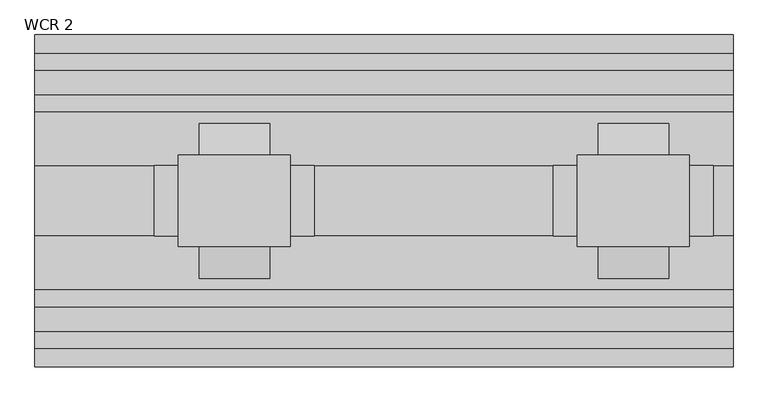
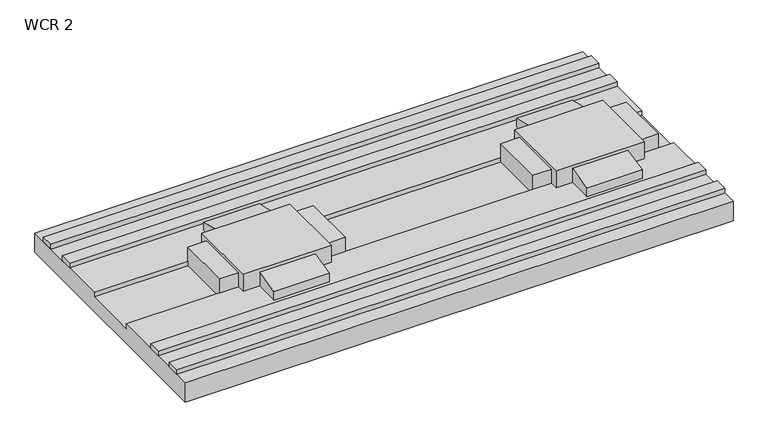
"""IFC4 building model written with IfcOpenShell, lengths in millimetres: proxy geometry, Duct-Walkercell-Wiremold : WCR 2."""

from ifc_helpers import new_model, si_unit, frame, origin, place, context, project, spatial, polyline, outline, extrude, faceted_brep, source, transform, mapped, element, save


def wcr_2_2d5ae721(model_context):
    return source(origin(), model_context, "Body", "SolidModel", [
        faceted_brep([(828.675, 69.85, 25.4), (828.675, -69.85, 25.4), (1000.125, -69.85, 25.4), (1000.125, 69.85, 25.4), (792.1625, -53.975, -19.05), (792.1625, 53.975, -19.05), (1036.6375, 53.975, -19.05), (1036.6375, -53.975, -19.05), (1000.125, 53.975, -9.525), (828.675, 53.975, -9.525), (828.675, 69.85, -9.525), (860.425, 69.85, -9.525), (860.425, 118.2751, -9.525), (968.375, 118.2751, -9.525), (968.375, 69.85, -9.525), (1000.125, 69.85, -9.525), (1000.125, 53.975, 19.05), (1036.6375, 53.975, 19.05), (792.1625, 53.975, 19.05), (828.675, 53.975, 19.05), (828.675, -53.975, -9.525), (1000.125, -53.975, -9.525), (1000.125, -69.85, -9.525), (968.375, -69.85, -9.525), (968.375, -118.2751, -9.525), (860.425, -118.2751, -9.525), (860.425, -69.85, -9.525), (828.675, -69.85, -9.525), (828.675, -53.975, 19.05), (792.1625, -53.975, 19.05), (1036.6375, -53.975, 19.05), (1000.125, -53.975, 19.05), (860.425, -69.85, 19.05), (968.375, -69.85, 19.05), (968.375, 69.85, 19.05), (860.425, 69.85, 19.05), (968.375, 118.2751, 7.9375), (968.375, -118.2751, 7.9375), (860.425, 118.2751, 7.9375), (860.425, -118.2751, 7.9375)], [[[0, 1, 2, 3]], [[4, 5, 6, 7]], [[8, 9, 10, 11, 12, 13, 14, 15]], [[9, 8, 16, 17, 6, 5, 18, 19]], [[20, 21, 22, 23, 24, 25, 26, 27]], [[21, 20, 28, 29, 4, 7, 30, 31]], [[1, 0, 10, 9, 19, 28, 20, 27]], [[2, 1, 27, 26, 32, 33, 23, 22]], [[3, 2, 22, 21, 31, 16, 8, 15]], [[0, 3, 15, 14, 34, 35, 11, 10]], [[31, 30, 17, 16]], [[18, 29, 28, 19]], [[29, 18, 5, 4]], [[17, 30, 7, 6]], [[36, 34, 14, 13]], [[37, 24, 23, 33]], [[38, 12, 11, 35]], [[39, 32, 26, 25]], [[34, 36, 38, 35]], [[36, 13, 12, 38]], [[24, 37, 39, 25]], [[37, 33, 32, 39]]]),
        faceted_brep([(219.075, 69.85, 25.4), (219.075, -69.85, 25.4), (390.525, -69.85, 25.4), (390.525, 69.85, 25.4), (182.5625, -53.975, -19.05), (182.5625, 53.975, -19.05), (427.0375, 53.975, -19.05), (427.0375, -53.975, -19.05), (390.525, 53.975, -9.525), (219.075, 53.975, -9.525), (219.075, 69.85, -9.525), (250.825, 69.85, -9.525), (250.825, 118.2751, -9.525), (358.775, 118.2751, -9.525), (358.775, 69.85, -9.525), (390.525, 69.85, -9.525), (390.525, 53.975, 19.05), (427.0375, 53.975, 19.05), (182.5625, 53.975, 19.05), (219.075, 53.975, 19.05), (219.075, -53.975, -9.525), (390.525, -53.975, -9.525), (390.525, -69.85, -9.525), (358.775, -69.85, -9.525), (358.775, -118.2751, -9.525), (250.825, -118.2751, -9.525), (250.825, -69.85, -9.525), (219.075, -69.85, -9.525), (219.075, -53.975, 19.05), (182.5625, -53.975, 19.05), (427.0375, -53.975, 19.05), (390.525, -53.975, 19.05), (250.825, -69.85, 19.05), (358.775, -69.85, 19.05), (358.775, 69.85, 19.05), (250.825, 69.85, 19.05), (358.775, 118.2751, 7.9375), (358.775, -118.2751, 7.9375), (250.825, 118.2751, 7.9375), (250.825, -118.2751, 7.9375)], [[[0, 1, 2, 3]], [[4, 5, 6, 7]], [[8, 9, 10, 11, 12, 13, 14, 15]], [[9, 8, 16, 17, 6, 5, 18, 19]], [[20, 21, 22, 23, 24, 25, 26, 27]], [[21, 20, 28, 29, 4, 7, 30, 31]], [[1, 0, 10, 9, 19, 28, 20, 27]], [[2, 1, 27, 26, 32, 33, 23, 22]], [[3, 2, 22, 21, 31, 16, 8, 15]], [[0, 3, 15, 14, 34, 35, 11, 10]], [[31, 30, 17, 16]], [[18, 29, 28, 19]], [[29, 18, 5, 4]], [[17, 30, 7, 6]], [[36, 34, 14, 13]], [[37, 24, 23, 33]], [[38, 12, 11, 35]], [[39, 32, 26, 25]], [[34, 36, 38, 35]], [[36, 13, 12, 38]], [[24, 37, 39, 25]], [[37, 33, 32, 39]]]),
        extrude(outline(polyline([(1066.8, -200.025), (1066.8, -225.425), (0.0, -225.425), (0.0, -200.025), (1066.8, -200.025)])), frame((0.0, 0.0, -9.525), z_axis=(0.0, 0.0, 1.0), x_axis=(1.0, 0.0, 0.0)), (0.0, 0.0, 1.0), 9.525),
        extrude(outline(polyline([(1066.8, -136.525), (1066.8, -161.925), (0.0, -161.925), (0.0, -136.525), (1066.8, -136.525)])), frame((0.0, 0.0, -9.525), z_axis=(0.0, 0.0, 1.0), x_axis=(1.0, 0.0, 0.0)), (0.0, 0.0, 1.0), 9.525),
        extrude(outline(polyline([(1066.8, 225.425), (1066.8, 200.025), (0.0, 200.025), (0.0, 225.425), (1066.8, 225.425)])), frame((0.0, 0.0, -9.525), z_axis=(0.0, 0.0, 1.0), x_axis=(1.0, 0.0, 0.0)), (0.0, 0.0, 1.0), 9.525),
        extrude(outline(polyline([(1066.8, 161.925), (1066.8, 136.525), (0.0, 136.525), (0.0, 161.925), (1066.8, 161.925)])), frame((0.0, 0.0, -9.525), z_axis=(0.0, 0.0, 1.0), x_axis=(1.0, 0.0, 0.0)), (0.0, 0.0, 1.0), 9.525),
        extrude(outline(polyline([(-53.975, -9.525), (-53.975, -19.05), (53.975, -19.05), (53.975, -9.525), (254.0, -9.525), (254.0, -49.2252), (-254.0, -49.2252), (-254.0, -9.525), (-53.975, -9.525)])), frame((0.0, 0.0, 0.0), z_axis=(1.0, 0.0, 0.0), x_axis=(0.0, 1.0, 0.0)), (0.0, 0.0, 1.0), 1066.8),
    ])


if __name__ == "__main__":
    model = new_model("IFC4")
    model_context = context("Model", 3, world=origin())
    ifc_project = project(units=[si_unit("LENGTHUNIT", "METRE", prefix="MILLI")], contexts=[model_context])
    site = spatial("IfcSite", under=ifc_project)
    building = spatial("IfcBuilding", under=site)
    placement = place(None, origin())
    wcr_2_shape = wcr_2_2d5ae721(model_context)
    element("IfcBuildingElementProxy", 1, Name="Duct-Walkercell-Wiremold : WCR 2", ObjectType="Duct-Walkercell-Wiremold : WCR 2", at=placement, inside=building, context=model_context, shape_type="MappedRepresentation", body=[
        mapped(wcr_2_shape, transform((0.0, 0.0, 0.0), x_axis=(1.0, 0.0, 0.0), y_axis=(0.0, 1.0, 0.0), z_axis=(0.0, 0.0, 1.0))),
    ])
    save(model, "model.ifc")
